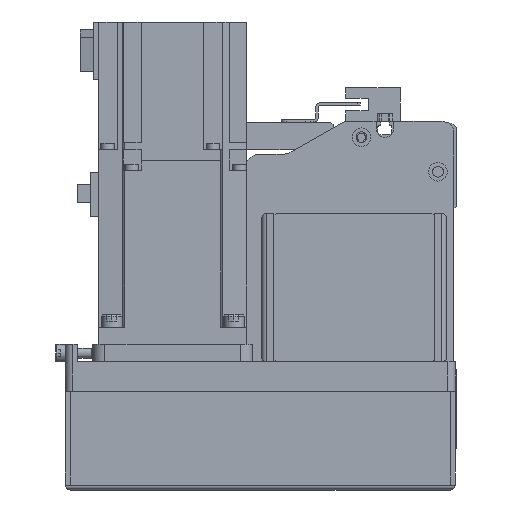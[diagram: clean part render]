
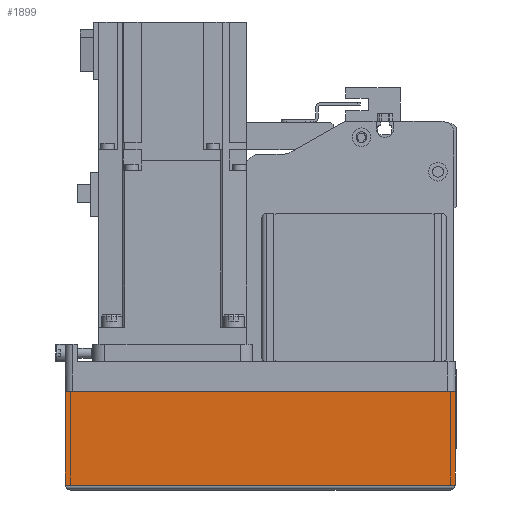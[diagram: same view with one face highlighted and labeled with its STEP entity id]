
A CAD part, left-side view. The second image highlights one B-rep face of the part: STEP entity #1899.
In plain terms, the highlighted planar face has unit normal (-1, 0, 0) as drawn and (0, -1, 0) by its records, which use the part's own axes.
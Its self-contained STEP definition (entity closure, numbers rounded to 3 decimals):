
#1899 = ADVANCED_FACE( '', ( #4421 ), #4422, .T. );
#4421 = FACE_OUTER_BOUND( '', #7677, .T. );
#4422 = PLANE( '', #7678 );
#7677 = EDGE_LOOP( '', ( #12926, #12927, #12928, #12929 ) );
#7678 = AXIS2_PLACEMENT_3D( '', #12930, #12931, #12932 );
#12926 = ORIENTED_EDGE( '', *, *, #20361, .F. );
#12927 = ORIENTED_EDGE( '', *, *, #20362, .F. );
#12928 = ORIENTED_EDGE( '', *, *, #19603, .T. );
#12929 = ORIENTED_EDGE( '', *, *, #20363, .T. );
#12930 = CARTESIAN_POINT( '', ( -158., -39., -12.1 ) );
#12931 = DIRECTION( '', ( 0., -1., 0. ) );
#12932 = DIRECTION( '', ( 0., 0., -1. ) );
#19603 = EDGE_CURVE( '', #22415, #23828, #23830, .T. );
#20361 = EDGE_CURVE( '', #25028, #25029, #25030, .T. );
#20362 = EDGE_CURVE( '', #22415, #25028, #25031, .T. );
#20363 = EDGE_CURVE( '', #23828, #25029, #25032, .T. );
#22415 = VERTEX_POINT( '', #27734 );
#23828 = VERTEX_POINT( '', #29712 );
#23830 = LINE( '', #29715, #29716 );
#25028 = VERTEX_POINT( '', #31519 );
#25029 = VERTEX_POINT( '', #31520 );
#25030 = LINE( '', #31521, #31522 );
#25031 = LINE( '', #31523, #31524 );
#25032 = LINE( '', #31525, #31526 );
#27734 = CARTESIAN_POINT( '', ( -158., -39., -12.1 ) );
#29712 = CARTESIAN_POINT( '', ( -158., -39., -50. ) );
#29715 = CARTESIAN_POINT( '', ( -158., -39., -12.1 ) );
#29716 = VECTOR( '', #35950, 1000. );
#31519 = CARTESIAN_POINT( '', ( 0., -39., -12.1 ) );
#31520 = CARTESIAN_POINT( '', ( 0., -39., -50. ) );
#31521 = CARTESIAN_POINT( '', ( 0., -39., -12.1 ) );
#31522 = VECTOR( '', #36894, 1000. );
#31523 = CARTESIAN_POINT( '', ( -158., -39., -12.1 ) );
#31524 = VECTOR( '', #36895, 1000. );
#31525 = CARTESIAN_POINT( '', ( -158., -39., -50. ) );
#31526 = VECTOR( '', #36896, 1000. );
#35950 = DIRECTION( '', ( 0., 0., -1. ) );
#36894 = DIRECTION( '', ( 0., 0., -1. ) );
#36895 = DIRECTION( '', ( 1., 0., 0. ) );
#36896 = DIRECTION( '', ( 1., 0., 0. ) );
